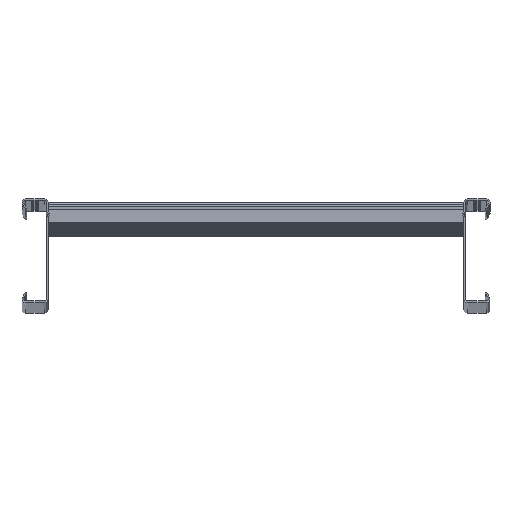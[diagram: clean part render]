
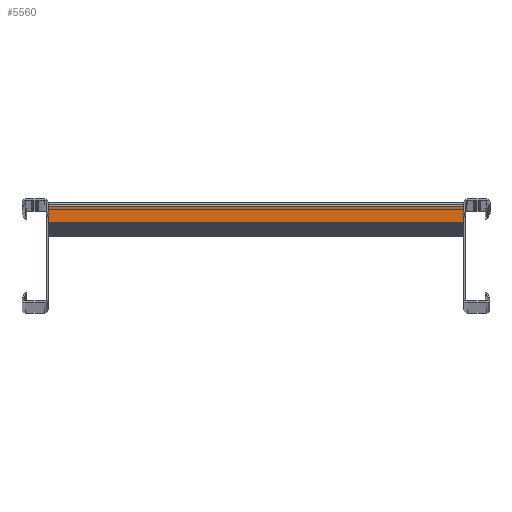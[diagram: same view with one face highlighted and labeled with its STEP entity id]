
A CAD part, top view. The second image highlights one B-rep face of the part: STEP entity #5560.
In plain terms, the highlighted planar face has unit normal (0, 0, 1) as drawn and (1, 0, 0) by its records, which use the part's own axes.
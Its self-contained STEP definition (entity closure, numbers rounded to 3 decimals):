
#700=CARTESIAN_POINT('',(39.75,881.,200.));
#710=VERTEX_POINT('',#700);
#740=CARTESIAN_POINT('',(39.75,0.,200.));
#750=DIRECTION('',(0.,-1.,0.));
#760=VECTOR('',#750,1.);
#770=LINE('',#740,#760);
#780=CARTESIAN_POINT('',(39.75,897.,200.));
#790=VERTEX_POINT('',#780);
#800=EDGE_CURVE('',#790,#710,#770,.T.);
#5260=CARTESIAN_POINT('',(39.75,900.,0.));
#5270=DIRECTION('',(1.,0.,0.));
#5280=DIRECTION('',(0.,-1.,0.));
#5290=AXIS2_PLACEMENT_3D('',#5260,#5270,#5280);
#5300=PLANE('',#5290);
#5310=ORIENTED_EDGE('',*,*,#800,.F.);
#5320=CARTESIAN_POINT('',(39.75,881.,0.));
#5330=DIRECTION('',(0.,0.,1.));
#5340=VECTOR('',#5330,1.);
#5350=LINE('',#5320,#5340);
#5360=CARTESIAN_POINT('',(39.75,881.,600.));
#5370=VERTEX_POINT('',#5360);
#5380=EDGE_CURVE('',#710,#5370,#5350,.T.);
#5390=ORIENTED_EDGE('',*,*,#5380,.F.);
#5400=CARTESIAN_POINT('',(39.75,0.,600.));
#5410=DIRECTION('',(0.,1.,0.));
#5420=VECTOR('',#5410,1.);
#5430=LINE('',#5400,#5420);
#5440=CARTESIAN_POINT('',(39.75,897.,600.));
#5450=VERTEX_POINT('',#5440);
#5460=EDGE_CURVE('',#5370,#5450,#5430,.T.);
#5470=ORIENTED_EDGE('',*,*,#5460,.F.);
#5480=CARTESIAN_POINT('',(39.75,897.,0.));
#5490=DIRECTION('',(0.,0.,1.));
#5500=VECTOR('',#5490,1.);
#5510=LINE('',#5480,#5500);
#5520=EDGE_CURVE('',#790,#5450,#5510,.T.);
#5530=ORIENTED_EDGE('',*,*,#5520,.T.);
#5540=EDGE_LOOP('',(#5530,#5470,#5390,#5310));
#5550=FACE_OUTER_BOUND('',#5540,.T.);
#5560=ADVANCED_FACE('',(#5550),#5300,.T.);
